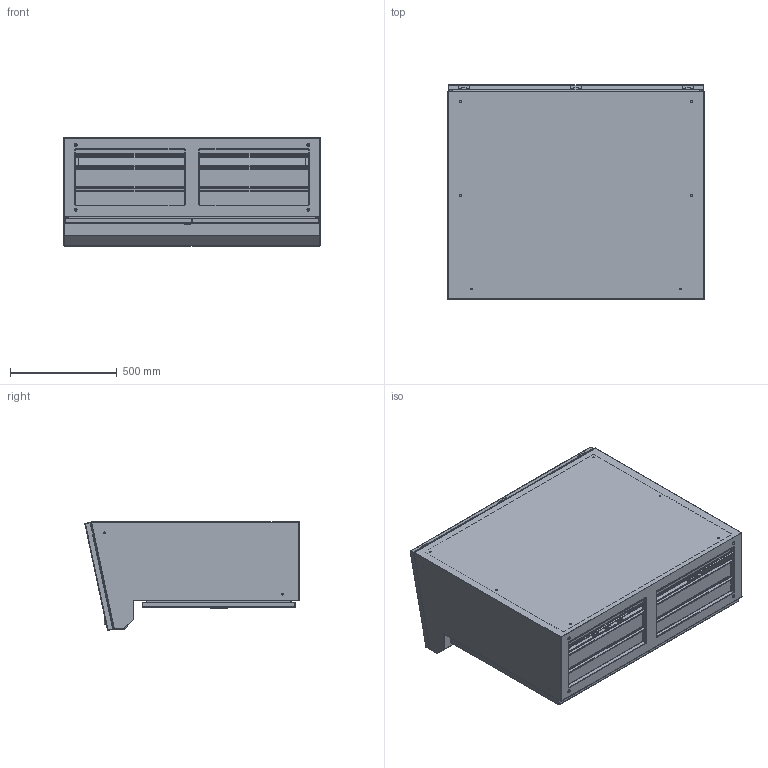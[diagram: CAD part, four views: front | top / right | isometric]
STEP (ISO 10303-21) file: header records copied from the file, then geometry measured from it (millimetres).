
FILE_DESCRIPTION (( 'STEP AP203' ), '1' );
FILE_NAME ('ZBA201.STEP', '2018-06-26T12:34:14', ( '' ), ( '' ), 'SwSTEP 2.0', 'SolidWorks 2017', '' );
FILE_SCHEMA (( 'CONFIG_CONTROL_DESIGN' ));
Length unit declared in the file: millimetre
Products named in the file (14): AR_ZBA_montaggio_porta_IB_L=1200; AR_ZBA_Montaggio_porta_CB_L=1200; AR_ZBA_ST_porta_IB_L=1200; AR_ZBA_ST_chiusura_std_WE250; ZBA201; AR_ZBA_Montaggio_Pannello_l=1200; AR_ZBA_Profilo orizzontale_L=0800; AR_ZBA_Tegolino_1200x0050; AR_ZBA_Piastra_L=1200; AR_ZBA_Pannello_l=1200; AR_ZBA_ST_porta_CB_L=1200; AR_ZBA_Tegolino_1200x0100; AR_Coprichiusura_ENUX; AR_ZBA_Saldatura_Base_L=1200
Assembly tree (21 placements, depth 3):
  ZBA201
    AR_ZBA_Saldatura_Base_L=1200
    AR_ZBA_Montaggio_Pannello_l=1200
      AR_ZBA_Pannello_l=1200
      AR_ZBA_ST_chiusura_std_WE250  x2
    AR_ZBA_montaggio_porta_IB_L=1200
      AR_ZBA_ST_porta_IB_L=1200
      AR_ZBA_Profilo orizzontale_L=0800  x2
      AR_Coprichiusura_ENUX
    AR_ZBA_Montaggio_porta_CB_L=1200
      AR_ZBA_ST_porta_CB_L=1200
      AR_ZBA_Profilo orizzontale_L=0800  x2
    AR_ZBA_Tegolino_1200x0050  x2
    AR_ZBA_Tegolino_1200x0100  x4
    AR_ZBA_Piastra_L=1200
Bounding box: 1200 x 1001.01 x 507.61 mm (x, y, z)
Volume: 10148826.6 mm3; surface area: 12616371.7 mm2
Topology: 18 solids, 18 shells, 2163 faces, 5548 edges, 3464 vertices
Faces by surface type: cylinder 1071, plane 949, sphere 56, cone 36, bspline 27, torus 24
Entity records: 41051 total; most frequent: CARTESIAN_POINT 8865, DIRECTION 6640, ORIENTED_EDGE 6128, EDGE_CURVE 3064, AXIS2_PLACEMENT_3D 2451, VERTEX_POINT 1913, LINE 1738, VECTOR 1738
